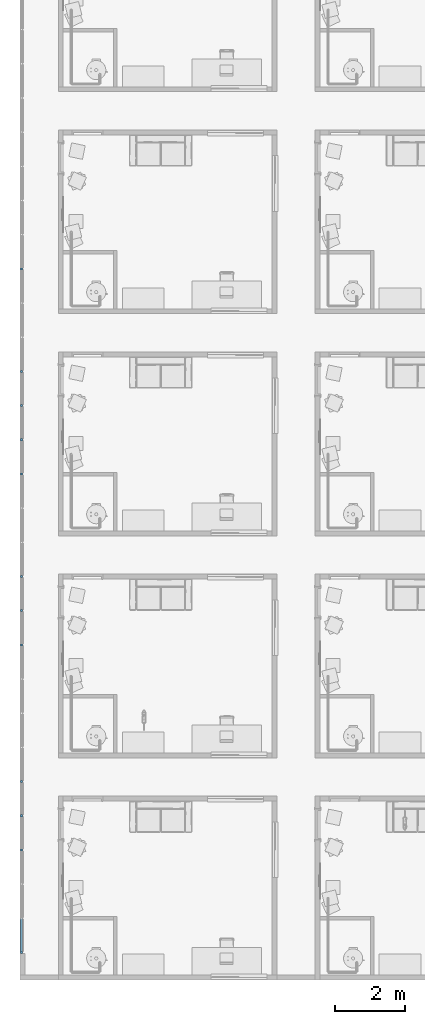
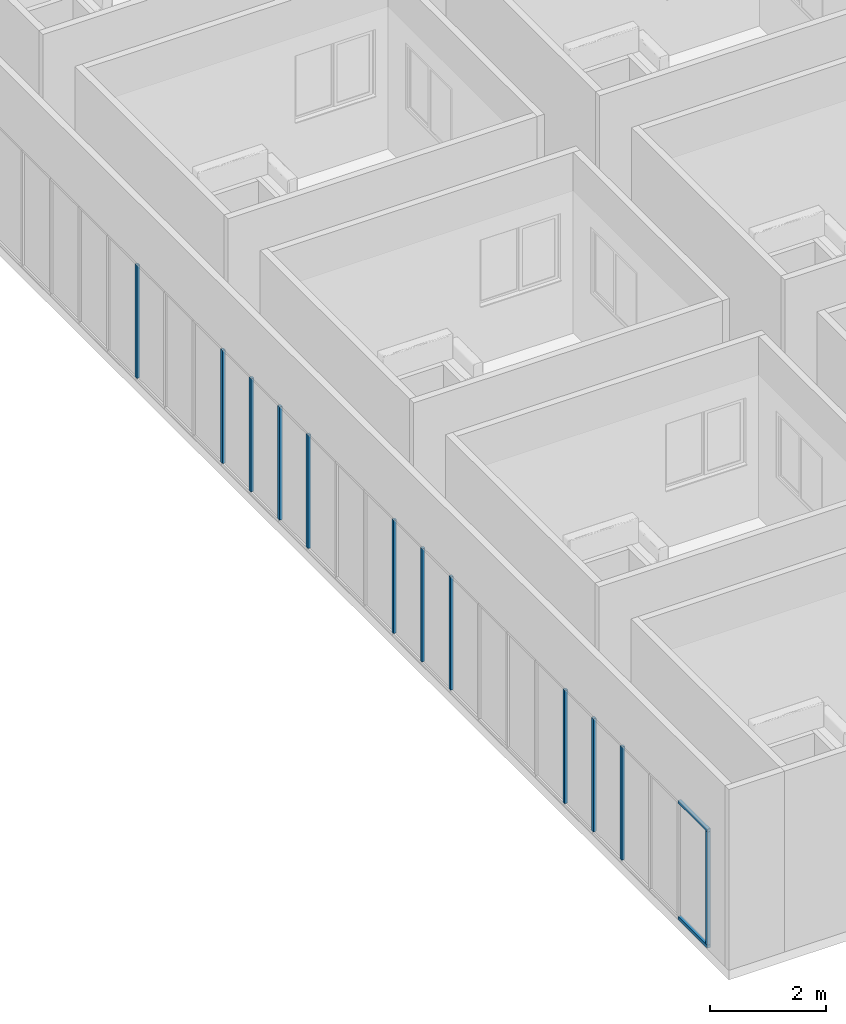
# One storey, part 1 of 71: 14 members, 1 element without a shape of its own.
"""IFC4 building model written with IfcOpenShell, lengths in centimetres."""

from ifc_helpers import new_model, entity, si_unit, converted_unit, derived_unit, direction, frame, origin, place, context, subcontext, project, spatial, indexed_curve, outline, extrude, source, transform, mapped, material, type_object, type_shapes, element, aggregate, save


model = new_model("IFC4")

# Units and contexts
model_context = context("Model", 3, precision=0.001, world=origin(), true_north=direction((6.123233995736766e-17, 1.0)))
body_context = subcontext(model_context, "Body", "Model", "MODEL_VIEW")
ifc_project = project(units=[si_unit("LENGTHUNIT", "METRE", prefix="CENTI"), si_unit("AREAUNIT", "SQUARE_METRE"), si_unit("VOLUMEUNIT", "CUBIC_METRE"), derived_unit("THERMALTRANSMITTANCEUNIT", [(si_unit("MASSUNIT", "GRAM", prefix="KILO"), 1), (si_unit("THERMODYNAMICTEMPERATUREUNIT", "KELVIN"), -1), (si_unit("TIMEUNIT", "SECOND"), -3)]), converted_unit("PLANEANGLEUNIT", "DEGREE", entity("IfcPlaneAngleMeasure", 0.017453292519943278), si_unit("PLANEANGLEUNIT", "RADIAN"), dimensions=[0, 0, 0, 0, 0, 0, 0]), derived_unit("MASSDENSITYUNIT", [(si_unit("MASSUNIT", "GRAM", prefix="KILO"), 1), (si_unit("LENGTHUNIT", "METRE"), -3)]), derived_unit("VAPORPERMEABILITYUNIT", [(si_unit("LENGTHUNIT", "METRE"), -1), (si_unit("TIMEUNIT", "SECOND"), 1)]), derived_unit("USERDEFINED", [(si_unit("MASSUNIT", "GRAM", prefix="KILO"), 1), (si_unit("TIMEUNIT", "SECOND"), -3), (si_unit("LENGTHUNIT", "METRE"), 3), (si_unit("ELECTRICCURRENTUNIT", "AMPERE"), -2)]), derived_unit("SPECIFICHEATCAPACITYUNIT", [(si_unit("THERMODYNAMICTEMPERATUREUNIT", "KELVIN"), -1), (si_unit("LENGTHUNIT", "METRE"), 2), (si_unit("TIMEUNIT", "SECOND"), -2)]), derived_unit("THERMALCONDUCTANCEUNIT", [(si_unit("MASSUNIT", "GRAM", prefix="KILO"), 1), (si_unit("THERMODYNAMICTEMPERATUREUNIT", "KELVIN"), -1), (si_unit("TIMEUNIT", "SECOND"), -3), (si_unit("LENGTHUNIT", "METRE"), 1)]), si_unit("PRESSUREUNIT", "PASCAL"), derived_unit("MODULUSOFELASTICITYUNIT", [(si_unit("MASSUNIT", "GRAM", prefix="KILO"), 1), (si_unit("LENGTHUNIT", "METRE"), -1), (si_unit("TIMEUNIT", "SECOND"), -2)]), derived_unit("THERMALEXPANSIONCOEFFICIENTUNIT", [(si_unit("THERMODYNAMICTEMPERATUREUNIT", "KELVIN"), -1)])], contexts=[model_context])

# Site, building, storey
site_placement = place(None, origin())
site = spatial("IfcSite", under=ifc_project, at=site_placement, Name="Default", CompositionType="ELEMENT")
building_placement = place(site_placement, origin())
building = spatial("IfcBuilding", under=site, at=building_placement, Name="IDS Escape Game Building", CompositionType="ELEMENT")
storey_placement = place(building_placement, frame((0.0, 0.0, 1200.0)))
storey = spatial("IfcBuildingStorey", under=building, at=storey_placement, Name="03_Third Floor", CompositionType="ELEMENT", Elevation=1200.0)

# Curtain wall, members
curtain_wall_type = type_object("IfcCurtainWallType", Name="Curtain Wall:ARC_31.3_CWA_LIB_bandraam vast 100cm - profiel 60x60_gen_BERSnl", PredefinedType="NOTDEFINED")
curtain_wall_placement = place(storey_placement, frame((0.0, 0.0, -1200.0)))
curtain_wall = element("IfcCurtainWall", 1, at=curtain_wall_placement, inside=storey, type_object=curtain_wall_type, Name="Curtain Wall:ARC_31.3_CWA_LIB_bandraam vast 100cm - profiel 60x60_gen_BERSnl", ObjectType="Curtain Wall:ARC_31.3_CWA_LIB_bandraam vast 100cm - profiel 60x60_gen_BERSnl", PredefinedType="NOTDEFINED")
ifc_material = material(Name="<Unnamed>")
member_type_1 = type_object("IfcMemberType", Name="Rectangular Mullion:30-_Stijl_Rechthoek_Midden_B60xD60", PredefinedType="MULLION", material=ifc_material)
shared_shape_1 = source(origin(), body_context, "Body", "SweptSolid", [
    extrude(outline(indexed_curve([(-3.0, -3.0), (3.0, -3.0), (3.0, 3.0), (-3.0, 3.0), (-3.0, -3.0)], self_intersect=False)), frame((-3.0, 3.0, -238.0), z_axis=(0.0, 0.0, 1.0), x_axis=(-1.0, 0.0, 0.0)), (0.0, 0.0, 1.0), 238.00000000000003),
])
type_shapes(member_type_1, [shared_shape_1])
member_1_placement = place(curtain_wall_placement, frame((-110.0, 75.0, 1206.0), z_axis=(0.0, 0.0, -1.0), x_axis=(0.0, -1.0, 0.0)))
member_1 = element("IfcMember", 2, at=member_1_placement, type_object=member_type_1, material=ifc_material, Name="Rectangular Mullion:30-_Stijl_Rechthoek_Midden_B60xD60", ObjectType="Rectangular Mullion:30-_Stijl_Rechthoek_Midden_B60xD60", PredefinedType="MULLION", context=body_context, shape_type="MappedRepresentation", body=[
    mapped(shared_shape_1, transform((0.0, 0.0, 0.0), scale=1.0)),
])
member_type_2 = type_object("IfcMemberType", Name="Rectangular Mullion:30-_Stijl_Rechthoek_Midden_B60xD60", PredefinedType="MULLION", material=ifc_material)
shared_shape_2 = source(origin(), body_context, "Body", "SweptSolid", [
    extrude(outline(indexed_curve([(-3.0, -3.0), (3.0, -3.0), (3.0, 3.0), (-3.0, 3.0), (-3.0, -3.0)], self_intersect=False)), frame((0.0, 3.0, -238.0), z_axis=(0.0, 0.0, 1.0), x_axis=(-1.0, 0.0, 0.0)), (0.0, 0.0, 1.0), 238.00000000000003),
])
type_shapes(member_type_2, [shared_shape_2])
member_2_placement = place(curtain_wall_placement, frame((-110.0, 2041.870967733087, 1206.0), z_axis=(0.0, 0.0, -1.0), x_axis=(0.0, -1.0, 0.0)))
member_2 = element("IfcMember", 3, at=member_2_placement, type_object=member_type_2, material=ifc_material, Name="Rectangular Mullion:30-_Stijl_Rechthoek_Midden_B60xD60", ObjectType="Rectangular Mullion:30-_Stijl_Rechthoek_Midden_B60xD60", PredefinedType="MULLION", context=body_context, shape_type="MappedRepresentation", body=[
    mapped(shared_shape_2, transform((0.0, 0.0, 0.0), scale=1.0)),
])
member_3_placement = place(curtain_wall_placement, frame((-110.0, 1747.2903225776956, 1206.0), z_axis=(0.0, 0.0, -1.0), x_axis=(0.0, -1.0, 0.0)))
member_3 = element("IfcMember", 4, at=member_3_placement, type_object=member_type_2, material=ifc_material, Name="Rectangular Mullion:30-_Stijl_Rechthoek_Midden_B60xD60", ObjectType="Rectangular Mullion:30-_Stijl_Rechthoek_Midden_B60xD60", PredefinedType="MULLION", context=body_context, shape_type="MappedRepresentation", body=[
    mapped(shared_shape_2, transform((0.0, 0.0, 0.0), scale=1.0)),
])
member_4_placement = place(curtain_wall_placement, frame((-110.0, 1649.0967741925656, 1206.0), z_axis=(0.0, 0.0, -1.0), x_axis=(0.0, -1.0, 0.0)))
member_4 = element("IfcMember", 5, at=member_4_placement, type_object=member_type_2, material=ifc_material, Name="Rectangular Mullion:30-_Stijl_Rechthoek_Midden_B60xD60", ObjectType="Rectangular Mullion:30-_Stijl_Rechthoek_Midden_B60xD60", PredefinedType="MULLION", context=body_context, shape_type="MappedRepresentation", body=[
    mapped(shared_shape_2, transform((0.0, 0.0, 0.0), scale=1.0)),
])
member_5_placement = place(curtain_wall_placement, frame((-110.0, 1550.9032258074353, 1206.0), z_axis=(0.0, 0.0, -1.0), x_axis=(0.0, -1.0, 0.0)))
member_5 = element("IfcMember", 6, at=member_5_placement, type_object=member_type_2, material=ifc_material, Name="Rectangular Mullion:30-_Stijl_Rechthoek_Midden_B60xD60", ObjectType="Rectangular Mullion:30-_Stijl_Rechthoek_Midden_B60xD60", PredefinedType="MULLION", context=body_context, shape_type="MappedRepresentation", body=[
    mapped(shared_shape_2, transform((0.0, 0.0, 0.0), scale=1.0)),
])
member_6_placement = place(curtain_wall_placement, frame((-110.0, 1452.7096774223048, 1206.0), z_axis=(0.0, 0.0, -1.0), x_axis=(0.0, -1.0, 0.0)))
member_6 = element("IfcMember", 7, at=member_6_placement, type_object=member_type_2, material=ifc_material, Name="Rectangular Mullion:30-_Stijl_Rechthoek_Midden_B60xD60", ObjectType="Rectangular Mullion:30-_Stijl_Rechthoek_Midden_B60xD60", PredefinedType="MULLION", context=body_context, shape_type="MappedRepresentation", body=[
    mapped(shared_shape_2, transform((0.0, 0.0, 0.0), scale=1.0)),
])
member_7_placement = place(curtain_wall_placement, frame((-110.0, 1158.1290322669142, 1206.0), z_axis=(0.0, 0.0, -1.0), x_axis=(0.0, -1.0, 0.0)))
member_7 = element("IfcMember", 8, at=member_7_placement, type_object=member_type_2, material=ifc_material, Name="Rectangular Mullion:30-_Stijl_Rechthoek_Midden_B60xD60", ObjectType="Rectangular Mullion:30-_Stijl_Rechthoek_Midden_B60xD60", PredefinedType="MULLION", context=body_context, shape_type="MappedRepresentation", body=[
    mapped(shared_shape_2, transform((0.0, 0.0, 0.0), scale=1.0)),
])
member_8_placement = place(curtain_wall_placement, frame((-110.0, 1059.9354838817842, 1206.0), z_axis=(0.0, 0.0, -1.0), x_axis=(0.0, -1.0, 0.0)))
member_8 = element("IfcMember", 9, at=member_8_placement, type_object=member_type_2, material=ifc_material, Name="Rectangular Mullion:30-_Stijl_Rechthoek_Midden_B60xD60", ObjectType="Rectangular Mullion:30-_Stijl_Rechthoek_Midden_B60xD60", PredefinedType="MULLION", context=body_context, shape_type="MappedRepresentation", body=[
    mapped(shared_shape_2, transform((0.0, 0.0, 0.0), scale=1.0)),
])
member_9_placement = place(curtain_wall_placement, frame((-110.0, 961.741935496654, 1206.0), z_axis=(0.0, 0.0, -1.0), x_axis=(0.0, -1.0, 0.0)))
member_9 = element("IfcMember", 10, at=member_9_placement, type_object=member_type_2, material=ifc_material, Name="Rectangular Mullion:30-_Stijl_Rechthoek_Midden_B60xD60", ObjectType="Rectangular Mullion:30-_Stijl_Rechthoek_Midden_B60xD60", PredefinedType="MULLION", context=body_context, shape_type="MappedRepresentation", body=[
    mapped(shared_shape_2, transform((0.0, 0.0, 0.0), scale=1.0)),
])
member_10_placement = place(curtain_wall_placement, frame((-110.0, 568.9677419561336, 1206.0), z_axis=(0.0, 0.0, -1.0), x_axis=(0.0, -1.0, 0.0)))
member_10 = element("IfcMember", 11, at=member_10_placement, type_object=member_type_2, material=ifc_material, Name="Rectangular Mullion:30-_Stijl_Rechthoek_Midden_B60xD60", ObjectType="Rectangular Mullion:30-_Stijl_Rechthoek_Midden_B60xD60", PredefinedType="MULLION", context=body_context, shape_type="MappedRepresentation", body=[
    mapped(shared_shape_2, transform((0.0, 0.0, 0.0), scale=1.0)),
])
member_11_placement = place(curtain_wall_placement, frame((-110.0, 470.77419357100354, 1206.0), z_axis=(0.0, 0.0, -1.0), x_axis=(0.0, -1.0, 0.0)))
member_11 = element("IfcMember", 12, at=member_11_placement, type_object=member_type_2, material=ifc_material, Name="Rectangular Mullion:30-_Stijl_Rechthoek_Midden_B60xD60", ObjectType="Rectangular Mullion:30-_Stijl_Rechthoek_Midden_B60xD60", PredefinedType="MULLION", context=body_context, shape_type="MappedRepresentation", body=[
    mapped(shared_shape_2, transform((0.0, 0.0, 0.0), scale=1.0)),
])
member_12_placement = place(curtain_wall_placement, frame((-110.0, 372.5806451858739, 1206.0), z_axis=(0.0, 0.0, -1.0), x_axis=(0.0, -1.0, 0.0)))
member_12 = element("IfcMember", 13, at=member_12_placement, type_object=member_type_2, material=ifc_material, Name="Rectangular Mullion:30-_Stijl_Rechthoek_Midden_B60xD60", ObjectType="Rectangular Mullion:30-_Stijl_Rechthoek_Midden_B60xD60", PredefinedType="MULLION", context=body_context, shape_type="MappedRepresentation", body=[
    mapped(shared_shape_2, transform((0.0, 0.0, 0.0), scale=1.0)),
])
member_type_3 = type_object("IfcMemberType", Name="Rectangular Mullion:30-_Stijl_Rechthoek_Midden_B60xD60", PredefinedType="MULLION", material=ifc_material)
shared_shape_3 = source(origin(), body_context, "Body", "SweptSolid", [
    extrude(outline(indexed_curve([(-3.0, -3.0), (3.0, -3.0), (3.0, 3.0), (-3.0, 3.0), (-3.0, -3.0)], self_intersect=False)), frame((-3.0, 3.0, -101.193548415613), z_axis=(0.0, 0.0, 1.0), x_axis=(-1.0, 0.0, 0.0)), (0.0, 0.0, 1.0), 101.193548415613),
])
type_shapes(member_type_3, [shared_shape_3])
member_13_placement = place(curtain_wall_placement, frame((-110.0, 75.0, 1450.0), z_axis=(0.0, -1.0, 0.0), x_axis=(0.0, 0.0, 1.0)))
member_13 = element("IfcMember", 14, at=member_13_placement, type_object=member_type_3, material=ifc_material, Name="Rectangular Mullion:30-_Stijl_Rechthoek_Midden_B60xD60", ObjectType="Rectangular Mullion:30-_Stijl_Rechthoek_Midden_B60xD60", PredefinedType="MULLION", context=body_context, shape_type="MappedRepresentation", body=[
    mapped(shared_shape_3, transform((0.0, 0.0, 0.0), scale=1.0)),
])
member_type_4 = type_object("IfcMemberType", Name="Rectangular Mullion:30-_Stijl_Rechthoek_Midden_B60xD60", PredefinedType="MULLION", material=ifc_material)
shared_shape_4 = source(origin(), body_context, "Body", "SweptSolid", [
    extrude(outline(indexed_curve([(-3.0, -3.0), (3.0, -3.0), (3.0, 3.0), (-3.0, 3.0), (-3.0, -3.0)], self_intersect=False)), frame((-3.0, 3.0, -101.19354841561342), z_axis=(0.0, 0.0, 1.0), x_axis=(-1.0, 0.0, 0.0)), (0.0, 0.0, 1.0), 101.19354841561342),
])
type_shapes(member_type_4, [shared_shape_4])
member_14_placement = place(curtain_wall_placement, frame((-110.0, 176.1935484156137, 1200.0), z_axis=(0.0, 1.0, 0.0), x_axis=(0.0, 0.0, -1.0)))
member_14 = element("IfcMember", 15, at=member_14_placement, type_object=member_type_4, material=ifc_material, Name="Rectangular Mullion:30-_Stijl_Rechthoek_Midden_B60xD60", ObjectType="Rectangular Mullion:30-_Stijl_Rechthoek_Midden_B60xD60", PredefinedType="MULLION", context=body_context, shape_type="MappedRepresentation", body=[
    mapped(shared_shape_4, transform((0.0, 0.0, 0.0), scale=1.0)),
])
aggregate(curtain_wall, [member_13, member_14, member_1, member_2, member_3, member_4, member_5, member_6, member_7, member_8, member_9, member_10, member_11, member_12])

save(model, "model.ifc")
